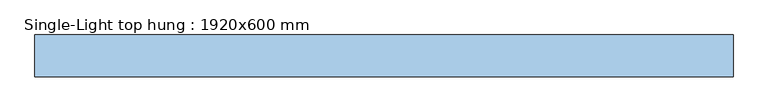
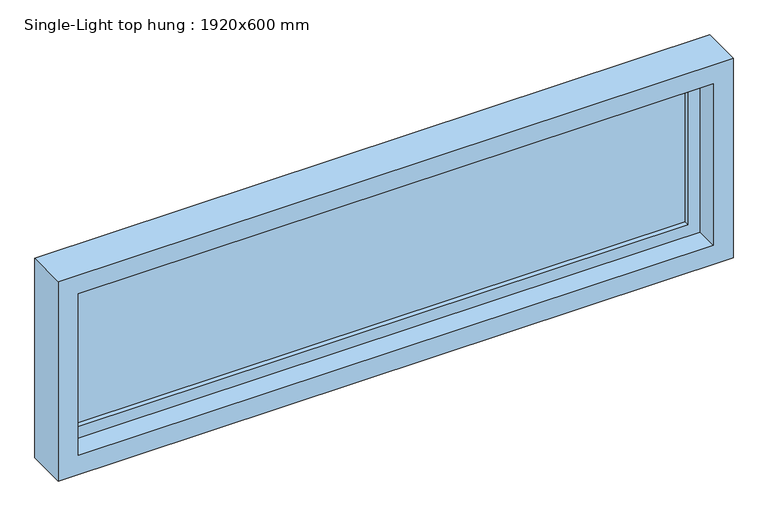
"""IFC4 building model written with IfcOpenShell, lengths in millimetres: window geometry, Single-Light top hung : 1920x600 mm."""

from ifc_helpers import new_model, si_unit, frame, origin, place, context, project, spatial, polyline, outline, extrude, faceted_brep, source, transform, mapped, element, save


def single_light_top_hung_1920x600_mm_50622a2d(model_context):
    return source(origin(), model_context, "Body", "SolidModel", [
        extrude(outline(polyline([(-868.0, 176.0), (868.0, 176.0), (868.0, 154.0), (-868.0, 154.0), (-868.0, 176.0)])), frame((0.0, 0.0, 892.0), z_axis=(0.0, 0.0, 1.0), x_axis=(1.0, 0.0, 0.0)), (0.0, 0.0, 1.0), 416.0),
        extrude(outline(polyline([(842.0, -918.0), (842.0, 918.0), (1358.0, 918.0), (1358.0, -918.0), (842.0, -918.0)]), holes=[polyline([(1308.0, -868.0), (1308.0, 868.0), (892.0, 868.0), (892.0, -868.0), (1308.0, -868.0)])]), frame((0.0, 140.0, 0.0), z_axis=(0.0, 1.0, 0.0), x_axis=(0.0, 0.0, 1.0)), (0.0, 0.0, 1.0), 50.0),
        faceted_brep([(-918.0, 190.0, 1358.0), (-918.0, 140.0, 1358.0), (-918.0, 140.0, 842.0), (-918.0, 190.0, 842.0), (-960.0, 190.0, 800.0), (-960.0, 190.0, 1400.0), (960.0, 190.0, 1400.0), (960.0, 190.0, 800.0), (918.0, 190.0, 842.0), (918.0, 190.0, 1358.0), (918.0, 140.0, 842.0), (918.0, 140.0, 1358.0), (-960.0, 75.0, 1400.0), (-960.0, 75.0, 800.0), (960.0, 75.0, 1400.0), (960.0, 75.0, 800.0), (-903.0, 140.0, 1343.0), (-903.0, 140.0, 857.0), (903.0, 140.0, 857.0), (903.0, 140.0, 1343.0), (-903.0, 75.0, 1343.0), (-903.0, 75.0, 857.0), (903.0, 75.0, 857.0), (903.0, 75.0, 1343.0)], [[[0, 1, 2, 3]], [[4, 5, 6, 7], [0, 3, 8, 9]], [[8, 3, 2, 10]], [[10, 11, 9, 8]], [[12, 5, 4, 13]], [[6, 14, 15, 7]], [[13, 4, 7, 15]], [[1, 11, 10, 2], [16, 17, 18, 19]], [[16, 20, 21, 17]], [[21, 22, 18, 17]], [[23, 19, 18, 22]], [[12, 13, 15, 14], [20, 23, 22, 21]], [[0, 9, 11, 1]], [[16, 19, 23, 20]], [[6, 5, 12, 14]]]),
    ])


if __name__ == "__main__":
    model = new_model("IFC4")
    model_context = context("Model", 3, world=origin())
    ifc_project = project(units=[si_unit("LENGTHUNIT", "METRE", prefix="MILLI")], contexts=[model_context])
    site = spatial("IfcSite", under=ifc_project)
    building = spatial("IfcBuilding", under=site)
    placement = place(None, origin())
    single_light_top_hung_1920x600_mm_shape = single_light_top_hung_1920x600_mm_50622a2d(model_context)
    element("IfcWindow", 1, ObjectType="Single-Light top hung : 1920x600 mm", at=placement, inside=building, context=model_context, shape_type="MappedRepresentation", body=[
        mapped(single_light_top_hung_1920x600_mm_shape, transform((0.0, 0.0, 0.0), x_axis=(1.0, 0.0, 0.0), y_axis=(0.0, 1.0, 0.0), z_axis=(0.0, 0.0, 1.0))),
    ])
    save(model, "model.ifc")
